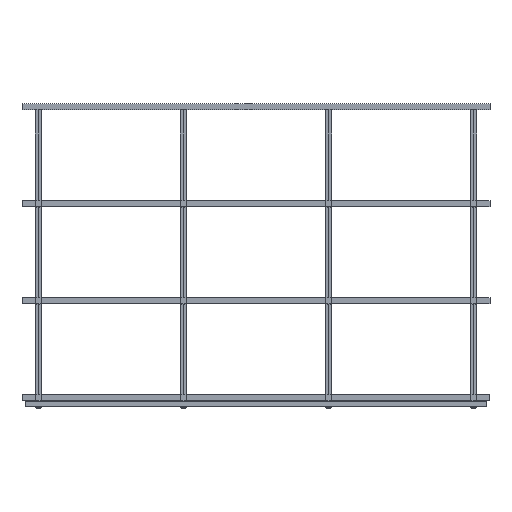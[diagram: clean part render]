
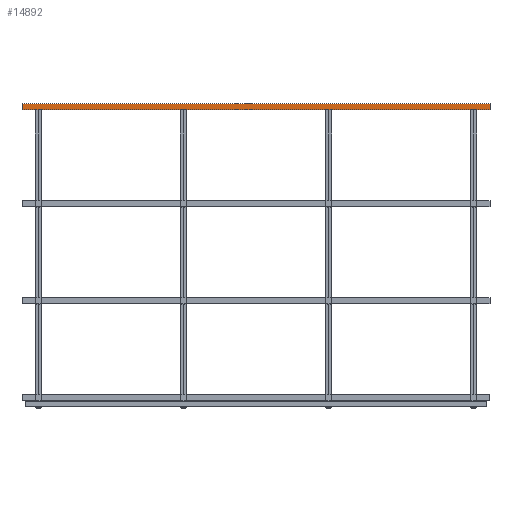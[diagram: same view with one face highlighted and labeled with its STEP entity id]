
A CAD part, top view. The second image highlights one B-rep face of the part: STEP entity #14892.
In plain terms, the highlighted planar face has unit normal (0, 0, 1).
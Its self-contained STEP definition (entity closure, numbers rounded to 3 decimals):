
#534 = LINE ( 'NONE', #11648, #7966 ) ;
#595 = EDGE_CURVE ( 'NONE', #29628, #8709, #17614, .T. ) ;
#912 = CARTESIAN_POINT ( 'NONE',  ( 967.5, 12.5, 187.5 ) ) ;
#2166 = EDGE_CURVE ( 'NONE', #36856, #29628, #3307, .T. ) ;
#3307 = LINE ( 'NONE', #8778, #8228 ) ;
#4810 = DIRECTION ( 'NONE',  ( 0., -1., 0. ) ) ;
#6597 = AXIS2_PLACEMENT_3D ( 'NONE', #13841, #22853, #11736 ) ;
#7013 = VECTOR ( 'NONE', #20081, 1000. ) ;
#7966 = VECTOR ( 'NONE', #28570, 1000. ) ;
#8228 = VECTOR ( 'NONE', #11412, 1000. ) ;
#8709 = VERTEX_POINT ( 'NONE', #15186 ) ;
#8778 = CARTESIAN_POINT ( 'NONE',  ( -967.5, 12.5, 187.5 ) ) ;
#8904 = ORIENTED_EDGE ( 'NONE', *, *, #22105, .T. ) ;
#11412 = DIRECTION ( 'NONE',  ( 1., 0., 0. ) ) ;
#11648 = CARTESIAN_POINT ( 'NONE',  ( -967.5, -12.5, 187.5 ) ) ;
#11736 = DIRECTION ( 'NONE',  ( -1., 0., 0. ) ) ;
#12313 = CARTESIAN_POINT ( 'NONE',  ( -967.5, 12.5, 187.5 ) ) ;
#13360 = EDGE_CURVE ( 'NONE', #15112, #8709, #534, .T. ) ;
#13841 = CARTESIAN_POINT ( 'NONE',  ( -967.5, 12.5, 187.5 ) ) ;
#14349 = ORIENTED_EDGE ( 'NONE', *, *, #595, .F. ) ;
#14500 = ORIENTED_EDGE ( 'NONE', *, *, #13360, .T. ) ;
#14892 = ADVANCED_FACE ( 'NONE', ( #34319 ), #25847, .F. ) ;
#15112 = VERTEX_POINT ( 'NONE', #29412 ) ;
#15186 = CARTESIAN_POINT ( 'NONE',  ( 967.5, -12.5, 187.5 ) ) ;
#16265 = VECTOR ( 'NONE', #4810, 1000. ) ;
#17614 = LINE ( 'NONE', #31398, #7013 ) ;
#20081 = DIRECTION ( 'NONE',  ( 0., -1., 0. ) ) ;
#22105 = EDGE_CURVE ( 'NONE', #36856, #15112, #30198, .T. ) ;
#22853 = DIRECTION ( 'NONE',  ( 0., 0., -1. ) ) ;
#23002 = EDGE_LOOP ( 'NONE', ( #14500, #14349, #26768, #8904 ) ) ;
#25847 = PLANE ( 'NONE',  #6597 ) ;
#26478 = CARTESIAN_POINT ( 'NONE',  ( -967.5, 12.5, 187.5 ) ) ;
#26768 = ORIENTED_EDGE ( 'NONE', *, *, #2166, .F. ) ;
#28570 = DIRECTION ( 'NONE',  ( 1., 0., 0. ) ) ;
#29412 = CARTESIAN_POINT ( 'NONE',  ( -967.5, -12.5, 187.5 ) ) ;
#29628 = VERTEX_POINT ( 'NONE', #912 ) ;
#30198 = LINE ( 'NONE', #26478, #16265 ) ;
#31398 = CARTESIAN_POINT ( 'NONE',  ( 967.5, 12.5, 187.5 ) ) ;
#34319 = FACE_OUTER_BOUND ( 'NONE', #23002, .T. ) ;
#36856 = VERTEX_POINT ( 'NONE', #12313 ) ;
